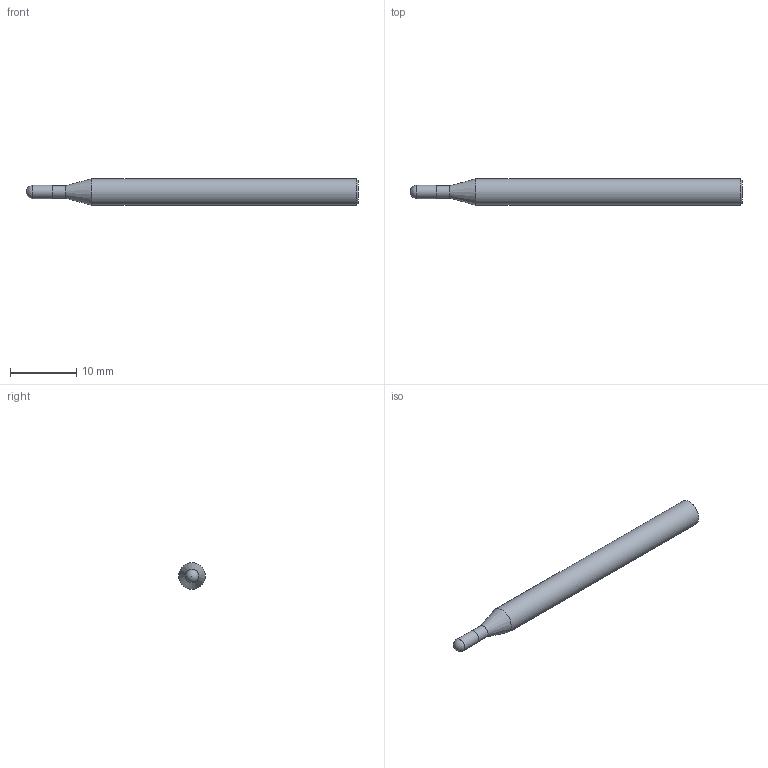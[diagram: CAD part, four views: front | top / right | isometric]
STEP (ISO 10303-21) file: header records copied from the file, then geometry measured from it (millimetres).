
FILE_DESCRIPTION(/* description */ (''),/* implementation_level */ '2;1');
FILE_NAME(/* name */ 'HSXBC4020 0450.stp',/* time_stamp */ '2026-01-27T10:24:45+08:00',/* author */ (''),/* organization */ (''),/* preprocessor_version */ 'ST-DEVELOPER v16',/* originating_system */ 'SIEMENS PLM Software NX 10.0',/* authorisation */ '');
FILE_SCHEMA (('CONFIG_CONTROL_DESIGN'));
Length unit declared in the file: millimetre
Products named in the file (1): HSXBC4020 0450_dxf
Bounding box: 50 x 4 x 4 mm (x, y, z)
Volume: 548.5 mm3; surface area: 589.6 mm2
Topology: 1 solids, 1 shells, 8 faces, 15 edges, 9 vertices
Faces by surface type: cylinder 3, plane 2, cone 2, sphere 1
Full cylindrical faces by diameter (mm): 1.9 x1, 2 x1, 4 x1
Entity records: 238 total; most frequent: DIRECTION 32, CARTESIAN_POINT 23, AXIS2_PLACEMENT_3D 16, EDGE_LOOP 14, ORIENTED_EDGE 14, FACE_BOUND 12, ADVANCED_FACE 8, PERSON_AND_ORGANIZATION 7
